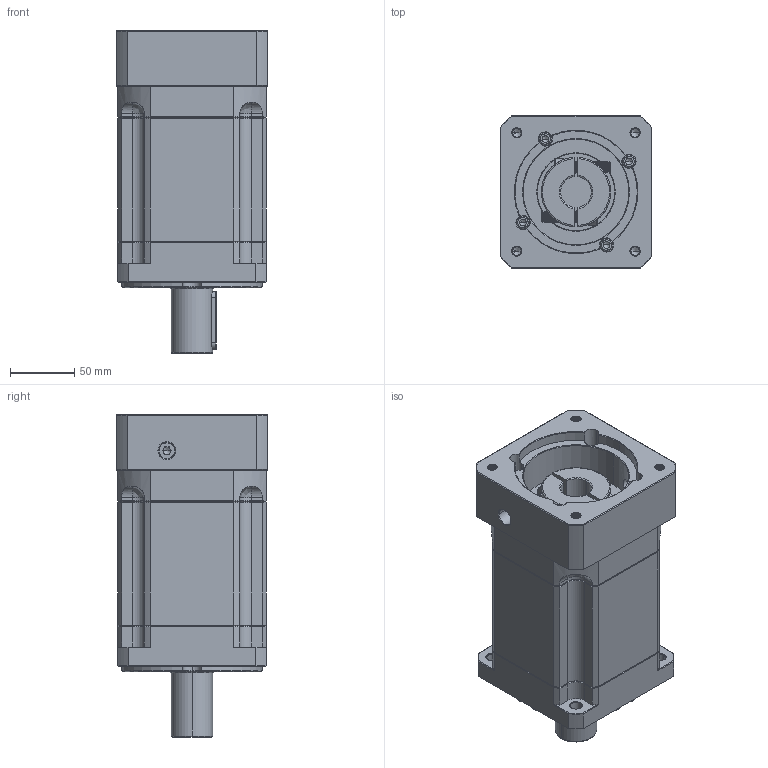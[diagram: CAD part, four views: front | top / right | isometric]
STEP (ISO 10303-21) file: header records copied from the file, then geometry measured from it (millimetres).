
FILE_DESCRIPTION (( 'STEP AP214' ), '1' );
FILE_NAME ('ZB115A-D32-L3-24-95-130-M8.step', '2023-03-02T09:02:55', ( '' ), ( 'Microsoft' ), 'SwSTEP 2.0', 'SolidWorks 2016', '' );
FILE_SCHEMA (( 'AUTOMOTIVE_DESIGN' ));
Length unit declared in the file: millimetre
Products named in the file (1): ZB115A-D32-L3-24-95-130-M8
Bounding box: 118 x 118 x 250.5 mm (x, y, z)
Volume: 2236514.2 mm3; surface area: 194580.9 mm2
Topology: 6 solids, 6 shells, 2124 faces, 5499 edges, 3466 vertices
Faces by surface type: plane 964, cylinder 444, cone 371, bspline 325, torus 20
Entity records: 113937 total; most frequent: CARTESIAN_POINT 41617, ORIENTED_EDGE 10930, DIRECTION 8975, EDGE_CURVE 5465, VERTEX_POINT 3466, VECTOR 3381, LINE 3381, AXIS2_PLACEMENT_3D 2797
